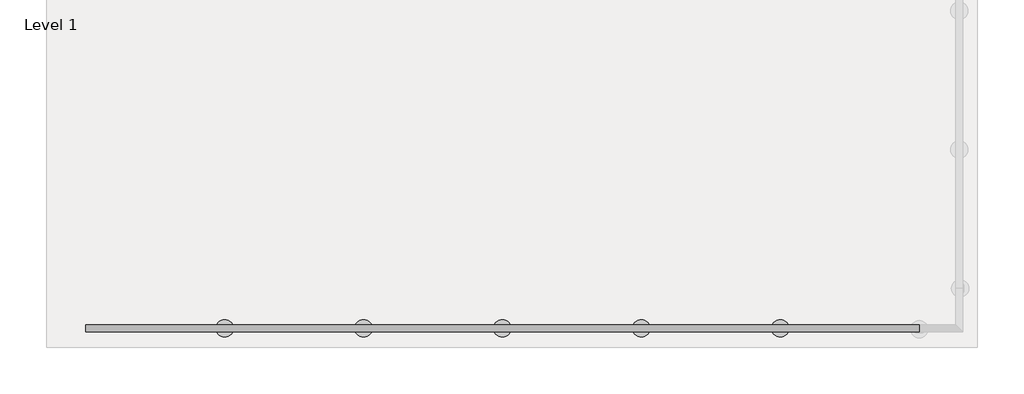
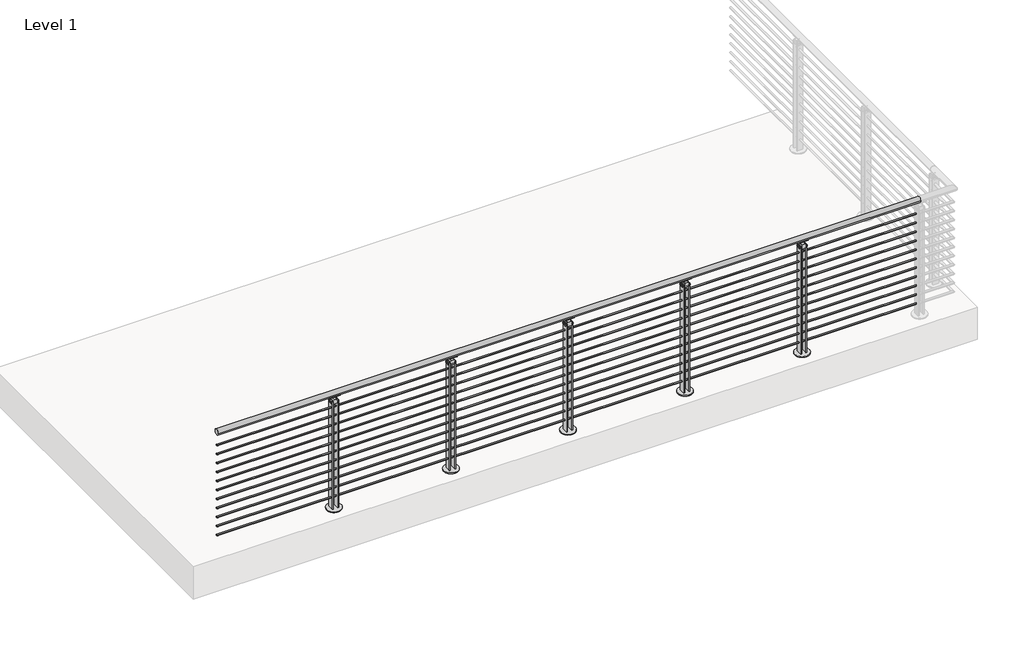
# One storey, part 12 of 36: 1 railing.
"""IFC4 building model written with IfcOpenShell, lengths in millimetres."""

from ifc_helpers import new_model, si_unit, point, frame, frame_2d, origin, origin_with_axes, place, context, project, spatial, polyline, circle_curve, trimmed, segment, composite_curve, outline, extrude, element, save
from ifc_brep_helpers import plane_surface, cylinder_surface, revolved_surface, advanced_brep

model = new_model("IFC4")

# Units and contexts
model_context = context("Model", 3, world=origin())
ifc_project = project(units=[si_unit("LENGTHUNIT", "METRE", prefix="MILLI")], contexts=[model_context])

# Site, building, storey
site = spatial("IfcSite", under=ifc_project)
building = spatial("IfcBuilding", under=site)
storey = spatial("IfcBuildingStorey", under=building, Name="Level 1", Elevation=0.0)

# Railing
placement = place(None, origin())
element("IfcRailing", 1, ObjectType="VIVA-BLADE-Multiline-Core Mount-Straight", at=placement, inside=storey, context=model_context, shape_type="SolidModel", body=[
    extrude(outline(composite_curve([segment(trimmed(circle_curve(frame_2d((-74875.5334719, 1054.1)), 25.4), [point((-74900.9334719, 1054.1))], [point((-74850.1334719, 1054.1))], False, "CARTESIAN"), True, "CONTINUOUS"), segment(trimmed(circle_curve(frame_2d((-74875.5334719, 1054.1)), 25.4), [point((-74850.1334719, 1054.1))], [point((-74900.9334719, 1054.1))], False, "CARTESIAN"), True, "CONTINUOUS")], self_intersect=False)), frame((63502.3092968, 0.0, 0.0), z_axis=(1.0, 0.0, 0.0), x_axis=(0.0, 1.0, 0.0)), (0.0, 0.0, 1.0), 6096.0),
    extrude(outline(composite_curve([segment(trimmed(circle_curve(frame_2d((-74875.5334719, 933.45)), 6.35), [point((-74869.1834719, 933.45))], [point((-74881.8834719, 933.45))], False, "CARTESIAN"), True, "CONTINUOUS"), segment(trimmed(circle_curve(frame_2d((-74875.5334719, 933.45)), 6.35), [point((-74881.8834719, 933.45))], [point((-74869.1834719, 933.45))], False, "CARTESIAN"), True, "CONTINUOUS")], self_intersect=False)), frame((63502.3092968, 0.0, 0.0), z_axis=(1.0, 0.0, 0.0), x_axis=(0.0, 1.0, 0.0)), (0.0, 0.0, 1.0), 6096.0),
    extrude(outline(composite_curve([segment(trimmed(circle_curve(frame_2d((-74875.5334719, 850.9)), 6.35), [point((-74869.1834719, 850.9))], [point((-74881.8834719, 850.9))], False, "CARTESIAN"), True, "CONTINUOUS"), segment(trimmed(circle_curve(frame_2d((-74875.5334719, 850.9)), 6.35), [point((-74881.8834719, 850.9))], [point((-74869.1834719, 850.9))], False, "CARTESIAN"), True, "CONTINUOUS")], self_intersect=False)), frame((63502.3092968, 0.0, 0.0), z_axis=(1.0, 0.0, 0.0), x_axis=(0.0, 1.0, 0.0)), (0.0, 0.0, 1.0), 6096.0),
    extrude(outline(composite_curve([segment(trimmed(circle_curve(frame_2d((-74875.5334719, 768.35)), 6.35), [point((-74869.1834719, 768.35))], [point((-74881.8834719, 768.35))], False, "CARTESIAN"), True, "CONTINUOUS"), segment(trimmed(circle_curve(frame_2d((-74875.5334719, 768.35)), 6.35), [point((-74881.8834719, 768.35))], [point((-74869.1834719, 768.35))], False, "CARTESIAN"), True, "CONTINUOUS")], self_intersect=False)), frame((63502.3092968, 0.0, 0.0), z_axis=(1.0, 0.0, 0.0), x_axis=(0.0, 1.0, 0.0)), (0.0, 0.0, 1.0), 6096.0),
    extrude(outline(composite_curve([segment(trimmed(circle_curve(frame_2d((-74875.5334719, 685.8)), 6.35), [point((-74869.1834719, 685.8))], [point((-74881.8834719, 685.8))], False, "CARTESIAN"), True, "CONTINUOUS"), segment(trimmed(circle_curve(frame_2d((-74875.5334719, 685.8)), 6.35), [point((-74881.8834719, 685.8))], [point((-74869.1834719, 685.8))], False, "CARTESIAN"), True, "CONTINUOUS")], self_intersect=False)), frame((63502.3092968, 0.0, 0.0), z_axis=(1.0, 0.0, 0.0), x_axis=(0.0, 1.0, 0.0)), (0.0, 0.0, 1.0), 6096.0),
    extrude(outline(composite_curve([segment(trimmed(circle_curve(frame_2d((-74875.5334719, 603.25)), 6.35), [point((-74869.1834719, 603.25))], [point((-74881.8834719, 603.25))], False, "CARTESIAN"), True, "CONTINUOUS"), segment(trimmed(circle_curve(frame_2d((-74875.5334719, 603.25)), 6.35), [point((-74881.8834719, 603.25))], [point((-74869.1834719, 603.25))], False, "CARTESIAN"), True, "CONTINUOUS")], self_intersect=False)), frame((63502.3092968, 0.0, 0.0), z_axis=(1.0, 0.0, 0.0), x_axis=(0.0, 1.0, 0.0)), (0.0, 0.0, 1.0), 6096.0),
    extrude(outline(composite_curve([segment(trimmed(circle_curve(frame_2d((-74875.5334719, 520.7)), 6.35), [point((-74869.1834719, 520.7))], [point((-74881.8834719, 520.7))], False, "CARTESIAN"), True, "CONTINUOUS"), segment(trimmed(circle_curve(frame_2d((-74875.5334719, 520.7)), 6.35), [point((-74881.8834719, 520.7))], [point((-74869.1834719, 520.7))], False, "CARTESIAN"), True, "CONTINUOUS")], self_intersect=False)), frame((63502.3092968, 0.0, 0.0), z_axis=(1.0, 0.0, 0.0), x_axis=(0.0, 1.0, 0.0)), (0.0, 0.0, 1.0), 6096.0),
    extrude(outline(composite_curve([segment(trimmed(circle_curve(frame_2d((-74875.5334719, 438.15)), 6.35), [point((-74869.1834719, 438.15))], [point((-74881.8834719, 438.15))], False, "CARTESIAN"), True, "CONTINUOUS"), segment(trimmed(circle_curve(frame_2d((-74875.5334719, 438.15)), 6.35), [point((-74881.8834719, 438.15))], [point((-74869.1834719, 438.15))], False, "CARTESIAN"), True, "CONTINUOUS")], self_intersect=False)), frame((63502.3092968, 0.0, 0.0), z_axis=(1.0, 0.0, 0.0), x_axis=(0.0, 1.0, 0.0)), (0.0, 0.0, 1.0), 6096.0),
    extrude(outline(composite_curve([segment(trimmed(circle_curve(frame_2d((-74875.5334719, 355.6)), 6.35), [point((-74869.1834719, 355.6))], [point((-74881.8834719, 355.6))], False, "CARTESIAN"), True, "CONTINUOUS"), segment(trimmed(circle_curve(frame_2d((-74875.5334719, 355.6)), 6.35), [point((-74881.8834719, 355.6))], [point((-74869.1834719, 355.6))], False, "CARTESIAN"), True, "CONTINUOUS")], self_intersect=False)), frame((63502.3092968, 0.0, 0.0), z_axis=(1.0, 0.0, 0.0), x_axis=(0.0, 1.0, 0.0)), (0.0, 0.0, 1.0), 6096.0),
    extrude(outline(composite_curve([segment(trimmed(circle_curve(frame_2d((-74875.5334719, 273.05)), 6.35), [point((-74869.1834719, 273.05))], [point((-74881.8834719, 273.05))], False, "CARTESIAN"), True, "CONTINUOUS"), segment(trimmed(circle_curve(frame_2d((-74875.5334719, 273.05)), 6.35), [point((-74881.8834719, 273.05))], [point((-74869.1834719, 273.05))], False, "CARTESIAN"), True, "CONTINUOUS")], self_intersect=False)), frame((63502.3092968, 0.0, 0.0), z_axis=(1.0, 0.0, 0.0), x_axis=(0.0, 1.0, 0.0)), (0.0, 0.0, 1.0), 6096.0),
    extrude(outline(composite_curve([segment(trimmed(circle_curve(frame_2d((-74875.5334719, 190.5)), 6.35), [point((-74869.1834719, 190.5))], [point((-74881.8834719, 190.5))], False, "CARTESIAN"), True, "CONTINUOUS"), segment(trimmed(circle_curve(frame_2d((-74875.5334719, 190.5)), 6.35), [point((-74881.8834719, 190.5))], [point((-74869.1834719, 190.5))], False, "CARTESIAN"), True, "CONTINUOUS")], self_intersect=False)), frame((63502.3092968, 0.0, 0.0), z_axis=(1.0, 0.0, 0.0), x_axis=(0.0, 1.0, 0.0)), (0.0, 0.0, 1.0), 6096.0),
    extrude(outline(composite_curve([segment(trimmed(circle_curve(frame_2d((-74875.5334719, 107.95)), 6.35), [point((-74869.1834719, 107.95))], [point((-74881.8834719, 107.95))], False, "CARTESIAN"), True, "CONTINUOUS"), segment(trimmed(circle_curve(frame_2d((-74875.5334719, 107.95)), 6.35), [point((-74881.8834719, 107.95))], [point((-74869.1834719, 107.95))], False, "CARTESIAN"), True, "CONTINUOUS")], self_intersect=False)), frame((63502.3092968, 0.0, 0.0), z_axis=(1.0, 0.0, 0.0), x_axis=(0.0, 1.0, 0.0)), (0.0, 0.0, 1.0), 6096.0),
    extrude(outline(polyline([(68555.2344611, -74850.1336752), (68563.2592968, -74850.1336752), (68563.2592968, -74900.9359998), (68555.2344611, -74900.9359998), (68555.2344611, -74850.1336752)])), frame((0.0, 0.0, -146.05), z_axis=(0.0, 0.0, 1.0), x_axis=(1.0, 0.0, 0.0)), (0.0, 0.0, 1.0), 146.05),
    extrude(outline(polyline([(68601.3592587, -74850.1336752), (68609.3602587, -74850.1336752), (68609.3602587, -74900.9359998), (68601.3592587, -74900.9359998), (68601.3592587, -74850.1336752)])), frame((0.0, 0.0, -146.05), z_axis=(0.0, 0.0, 1.0), x_axis=(1.0, 0.0, 0.0)), (0.0, 0.0, 1.0), 146.05),
    extrude(outline(composite_curve([segment(trimmed(circle_curve(frame_2d((68582.2973599, -74875.5334719)), 63.4988059), [point((68582.2973599, -74939.0322778))], [point((68582.2973599, -74812.0346659))], False, "CARTESIAN"), True, "CONTINUOUS"), segment(trimmed(circle_curve(frame_2d((68582.2973599, -74875.5334719)), 63.4988059), [point((68582.2973599, -74812.0346659))], [point((68582.2973599, -74939.0322778))], False, "CARTESIAN"), True, "CONTINUOUS")], self_intersect=False)), origin_with_axes(), (0.0, 0.0, 1.0), 9.525),
    advanced_brep(
    [(68627.5466968, -74862.7733482, 1032.0967655), (68627.5466968, -74887.6454127, 1031.9535285), (68627.5466968, -74890.4543431, 1027.1267745), (68627.5466968, -74858.9374508, 1027.707533), (68537.0718968, -74862.7733482, 1032.0967655), (68537.0718968, -74858.9374508, 1027.707533), (68537.0718968, -74890.5681364, 1027.1893964), (68537.0718968, -74887.7323849, 1032.0018447)],
    [
        (0, 1, circle_curve(frame((68627.5466968, -74875.3371511, 1054.2115898), z_axis=(-1.0, 0.0, 0.0), x_axis=(0.0, 1.0, 0.0)), 25.4345159)),
        (1, 2, circle_curve(frame((68627.5466968, -74888.977038, 1029.4993599), z_axis=(1.0, 0.0, 0.0), x_axis=(0.0, 1.0, 0.0)), 2.7949225)),
        (2, 3, circle_curve(frame((68627.5466968, -74875.203688, 1054.9742164), z_axis=(1.0, 0.0, 0.0), x_axis=(0.0, 1.0, 0.0)), 31.75)),
        (3, 0, circle_curve(frame((68627.5466968, -74861.2257905, 1029.5784521), z_axis=(1.0, 0.0, 0.0), x_axis=(0.0, 1.0, 0.0)), 2.9558141)),
        (4, 5, circle_curve(frame((68537.0718968, -74861.2257905, 1029.5784521), z_axis=(-1.0, 0.0, 0.0), x_axis=(0.0, 1.0, 0.0)), 2.9558141)),
        (5, 6, circle_curve(frame((68537.0718968, -74875.203688, 1054.9742164), z_axis=(-1.0, 0.0, 0.0), x_axis=(0.0, 1.0, 0.0)), 31.75)),
        (6, 7, circle_curve(frame((68537.0718968, -74888.977038, 1029.4993599), z_axis=(-1.0, 0.0, 0.0), x_axis=(0.0, 1.0, 0.0)), 2.7949225)),
        (7, 4, circle_curve(frame((68537.0718968, -74875.3371511, 1054.2115898), z_axis=(1.0, 0.0, 0.0), x_axis=(0.0, 1.0, 0.0)), 25.4345159)),
        (0, 4),
        (7, 1),
        (6, 2),
        (5, 3),
    ],
    [
        plane_surface(frame((68627.5466968, -74849.9026353, 1054.2115898), z_axis=(1.0, 0.0, 0.0), x_axis=(0.0, 0.0, -1.0))),
        plane_surface(frame((68537.0718968, -74849.9026353, 1054.2115898), z_axis=(-1.0, 0.0, 0.0), x_axis=(0.0, 0.0, 1.0))),
        revolved_surface(polyline([(68537.0718968, -74849.90263520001, 1054.2115898), (68627.5466968, -74849.90263520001, 1054.2115898)]), (68537.0718968, -74875.3371511, 1054.2115898), (-1.0, 0.0, 0.0)),
        cylinder_surface(frame((68537.0718968, -74888.977038, 1029.4993599), z_axis=(1.0, 0.0, 0.0), x_axis=(0.0, 1.0, 0.0)), 2.7949225),
        cylinder_surface(frame((68537.0718968, -74875.203688, 1054.9742164), z_axis=(1.0, 0.0, 0.0), x_axis=(0.0, 1.0, 0.0)), 31.75),
        cylinder_surface(frame((68537.0718968, -74861.2257905, 1029.5784521), z_axis=(1.0, 0.0, 0.0), x_axis=(0.0, 1.0, 0.0)), 2.9558141),
    ],
    [
        (0, [[1, 2, 3, 4]]),
        (1, [[5, 6, 7, 8]]),
        (2, [[-1, 9, -8, 10]]),
        (3, [[-2, -10, -7, 11]]),
        (4, [[-3, -11, -6, 12]]),
        (5, [[-4, -12, -5, -9]]),
    ],
),
    advanced_brep(
    [(68595.0092968, -74872.9934719, 1014.4125), (68569.6092968, -74872.9934719, 1014.4125), (68555.2413819, -74872.9934719, 1028.7804149), (68609.3772116, -74872.9934719, 1028.7804149), (68595.0092968, -74878.0734719, 1014.4125), (68609.3772116, -74878.0734719, 1028.7804149), (68555.2413819, -74878.0734719, 1028.7804149), (68569.6092968, -74878.0734719, 1014.4125)],
    [
        (0, 1),
        (1, 2, circle_curve(frame((68555.2413819, -74872.9934719, 1014.4125), z_axis=(0.0, -1.0, 0.0), x_axis=(-1.0, 0.0, 0.0)), 14.3679149)),
        (2, 3),
        (3, 0, circle_curve(frame((68609.3772116, -74872.9934719, 1014.4125), z_axis=(0.0, -1.0, 0.0), x_axis=(-1.0, 0.0, 0.0)), 14.3679149)),
        (4, 5, circle_curve(frame((68609.3772116, -74878.0734719, 1014.4125), z_axis=(0.0, 1.0, 0.0), x_axis=(-1.0, 0.0, 0.0)), 14.3679149)),
        (5, 6),
        (6, 7, circle_curve(frame((68555.2413819, -74878.0734719, 1014.4125), z_axis=(0.0, 1.0, 0.0), x_axis=(-1.0, 0.0, 0.0)), 14.3679149)),
        (7, 4),
        (0, 4),
        (7, 1),
        (6, 2),
        (5, 3),
    ],
    [
        plane_surface(frame((68569.6092968, -74872.9934719, 1014.4125), z_axis=(0.0, 1.0, 0.0), x_axis=(-1.0, 0.0, 0.0))),
        plane_surface(frame((68569.6092968, -74878.0734719, 1014.4125), z_axis=(0.0, -1.0, 0.0), x_axis=(1.0, 0.0, 0.0))),
        plane_surface(frame((68595.0092968, -74872.9934719, 1014.4125), z_axis=(0.0, 0.0, -1.0), x_axis=(0.0, -1.0, 0.0))),
        revolved_surface(polyline([(68540.87346700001, -74878.0734719, 1014.4125), (68540.87346700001, -74872.9934719, 1014.4125)]), (68555.2413819, -74878.0734719, 1014.4125), (0.0, -1.0, 0.0)),
        plane_surface(frame((68555.2413819, -74872.9934719, 1028.7804149), z_axis=(0.0, 0.0, 1.0), x_axis=(0.0, -1.0, 0.0))),
        revolved_surface(polyline([(68595.00929670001, -74878.0734719, 1014.4125), (68595.00929670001, -74872.9934719, 1014.4125)]), (68609.3772116, -74878.0734719, 1014.4125), (0.0, -1.0, 0.0)),
    ],
    [
        (0, [[1, 2, 3, 4]]),
        (1, [[5, 6, 7, 8]]),
        (2, [[-1, 9, -8, 10]]),
        (3, [[-2, -10, -7, 11]]),
        (4, [[-3, -11, -6, 12]]),
        (5, [[-4, -12, -5, -9]]),
    ],
),
    extrude(outline(polyline([(68555.2344611, -74850.1336752), (68563.2592968, -74850.1336752), (68563.2592968, -74900.9359998), (68555.2344611, -74900.9359998), (68555.2344611, -74850.1336752)])), origin_with_axes(), (0.0, 0.0, 1.0), 996.95),
    extrude(outline(composite_curve([segment(trimmed(circle_curve(frame_2d((-74888.2359488, 986.0416929)), 8.89), [point((-74897.1259488, 986.0416929))], [point((-74879.3459488, 986.0416929))], False, "CARTESIAN"), True, "CONTINUOUS"), segment(trimmed(circle_curve(frame_2d((-74888.2359488, 986.0416929)), 8.89), [point((-74879.3459488, 986.0416929))], [point((-74897.1259488, 986.0416929))], False, "CARTESIAN"), True, "CONTINUOUS")], self_intersect=False)), frame((68550.5592968, 0.0, 0.0), z_axis=(1.0, 0.0, 0.0), x_axis=(0.0, 1.0, 0.0)), (0.0, 0.0, 1.0), 63.4880631),
    extrude(outline(composite_curve([segment(trimmed(circle_curve(frame_2d((-74862.8360508, 986.0416929)), 8.89), [point((-74871.7260508, 986.0416929))], [point((-74853.9460508, 986.0416929))], False, "CARTESIAN"), True, "CONTINUOUS"), segment(trimmed(circle_curve(frame_2d((-74862.8360508, 986.0416929)), 8.89), [point((-74853.9460508, 986.0416929))], [point((-74871.7260508, 986.0416929))], False, "CARTESIAN"), True, "CONTINUOUS")], self_intersect=False)), frame((68550.5592968, 0.0, 0.0), z_axis=(1.0, 0.0, 0.0), x_axis=(0.0, 1.0, 0.0)), (0.0, 0.0, 1.0), 63.4880631),
    extrude(outline(polyline([(974.7123, 68563.2592968), (974.7123, 68601.3592968), (1008.0625, 68601.3592968), (1014.4125, 68595.0092968), (1014.4125, 68569.6092968), (1008.0625, 68563.2592968), (974.7123, 68563.2592968)])), frame((0.0, -74900.9359998, 0.0), z_axis=(0.0, 1.0, 0.0), x_axis=(0.0, 0.0, 1.0)), (0.0, 0.0, 1.0), 50.8025279),
    extrude(outline(polyline([(68601.3592587, -74850.1336752), (68609.3602587, -74850.1336752), (68609.3602587, -74900.9359998), (68601.3592587, -74900.9359998), (68601.3592587, -74850.1336752)])), origin_with_axes(), (0.0, 0.0, 1.0), 996.95),
    extrude(outline(polyline([(67539.2344611, -74850.1336752), (67547.2592968, -74850.1336752), (67547.2592968, -74900.9359998), (67539.2344611, -74900.9359998), (67539.2344611, -74850.1336752)])), frame((0.0, 0.0, -146.05), z_axis=(0.0, 0.0, 1.0), x_axis=(1.0, 0.0, 0.0)), (0.0, 0.0, 1.0), 146.05),
    extrude(outline(polyline([(67585.3592587, -74850.1336752), (67593.3602587, -74850.1336752), (67593.3602587, -74900.9359998), (67585.3592587, -74900.9359998), (67585.3592587, -74850.1336752)])), frame((0.0, 0.0, -146.05), z_axis=(0.0, 0.0, 1.0), x_axis=(1.0, 0.0, 0.0)), (0.0, 0.0, 1.0), 146.05),
    extrude(outline(composite_curve([segment(trimmed(circle_curve(frame_2d((67566.2973599, -74875.5334719)), 63.4988059), [point((67566.2973599, -74939.0322778))], [point((67566.2973599, -74812.0346659))], False, "CARTESIAN"), True, "CONTINUOUS"), segment(trimmed(circle_curve(frame_2d((67566.2973599, -74875.5334719)), 63.4988059), [point((67566.2973599, -74812.0346659))], [point((67566.2973599, -74939.0322778))], False, "CARTESIAN"), True, "CONTINUOUS")], self_intersect=False)), origin_with_axes(), (0.0, 0.0, 1.0), 9.525),
    advanced_brep(
    [(67611.5466968, -74862.7733482, 1032.0967655), (67611.5466968, -74887.6454127, 1031.9535285), (67611.5466968, -74890.4543431, 1027.1267745), (67611.5466968, -74858.9374508, 1027.707533), (67521.0718968, -74862.7733482, 1032.0967655), (67521.0718968, -74858.9374508, 1027.707533), (67521.0718968, -74890.5681364, 1027.1893964), (67521.0718968, -74887.7323849, 1032.0018447)],
    [
        (0, 1, circle_curve(frame((67611.5466968, -74875.3371511, 1054.2115898), z_axis=(-1.0, 0.0, 0.0), x_axis=(0.0, 1.0, 0.0)), 25.4345159)),
        (1, 2, circle_curve(frame((67611.5466968, -74888.977038, 1029.4993599), z_axis=(1.0, 0.0, 0.0), x_axis=(0.0, 1.0, 0.0)), 2.7949225)),
        (2, 3, circle_curve(frame((67611.5466968, -74875.203688, 1054.9742164), z_axis=(1.0, 0.0, 0.0), x_axis=(0.0, 1.0, 0.0)), 31.75)),
        (3, 0, circle_curve(frame((67611.5466968, -74861.2257905, 1029.5784521), z_axis=(1.0, 0.0, 0.0), x_axis=(0.0, 1.0, 0.0)), 2.9558141)),
        (4, 5, circle_curve(frame((67521.0718968, -74861.2257905, 1029.5784521), z_axis=(-1.0, 0.0, 0.0), x_axis=(0.0, 1.0, 0.0)), 2.9558141)),
        (5, 6, circle_curve(frame((67521.0718968, -74875.203688, 1054.9742164), z_axis=(-1.0, 0.0, 0.0), x_axis=(0.0, 1.0, 0.0)), 31.75)),
        (6, 7, circle_curve(frame((67521.0718968, -74888.977038, 1029.4993599), z_axis=(-1.0, 0.0, 0.0), x_axis=(0.0, 1.0, 0.0)), 2.7949225)),
        (7, 4, circle_curve(frame((67521.0718968, -74875.3371511, 1054.2115898), z_axis=(1.0, 0.0, 0.0), x_axis=(0.0, 1.0, 0.0)), 25.4345159)),
        (0, 4),
        (7, 1),
        (6, 2),
        (5, 3),
    ],
    [
        plane_surface(frame((67611.5466968, -74849.9026353, 1054.2115898), z_axis=(1.0, 0.0, 0.0), x_axis=(0.0, 0.0, -1.0))),
        plane_surface(frame((67521.0718968, -74849.9026353, 1054.2115898), z_axis=(-1.0, 0.0, 0.0), x_axis=(0.0, 0.0, 1.0))),
        revolved_surface(polyline([(67521.0718968, -74849.90263520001, 1054.2115898), (67611.5466968, -74849.90263520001, 1054.2115898)]), (67521.0718968, -74875.3371511, 1054.2115898), (-1.0, 0.0, 0.0)),
        cylinder_surface(frame((67521.0718968, -74888.977038, 1029.4993599), z_axis=(1.0, 0.0, 0.0), x_axis=(0.0, 1.0, 0.0)), 2.7949225),
        cylinder_surface(frame((67521.0718968, -74875.203688, 1054.9742164), z_axis=(1.0, 0.0, 0.0), x_axis=(0.0, 1.0, 0.0)), 31.75),
        cylinder_surface(frame((67521.0718968, -74861.2257905, 1029.5784521), z_axis=(1.0, 0.0, 0.0), x_axis=(0.0, 1.0, 0.0)), 2.9558141),
    ],
    [
        (0, [[1, 2, 3, 4]]),
        (1, [[5, 6, 7, 8]]),
        (2, [[-1, 9, -8, 10]]),
        (3, [[-2, -10, -7, 11]]),
        (4, [[-3, -11, -6, 12]]),
        (5, [[-4, -12, -5, -9]]),
    ],
),
    advanced_brep(
    [(67579.0092968, -74872.9934719, 1014.4125), (67553.6092968, -74872.9934719, 1014.4125), (67539.2413819, -74872.9934719, 1028.7804149), (67593.3772116, -74872.9934719, 1028.7804149), (67579.0092968, -74878.0734719, 1014.4125), (67593.3772116, -74878.0734719, 1028.7804149), (67539.2413819, -74878.0734719, 1028.7804149), (67553.6092968, -74878.0734719, 1014.4125)],
    [
        (0, 1),
        (1, 2, circle_curve(frame((67539.2413819, -74872.9934719, 1014.4125), z_axis=(0.0, -1.0, 0.0), x_axis=(-1.0, 0.0, 0.0)), 14.3679149)),
        (2, 3),
        (3, 0, circle_curve(frame((67593.3772116, -74872.9934719, 1014.4125), z_axis=(0.0, -1.0, 0.0), x_axis=(-1.0, 0.0, 0.0)), 14.3679149)),
        (4, 5, circle_curve(frame((67593.3772116, -74878.0734719, 1014.4125), z_axis=(0.0, 1.0, 0.0), x_axis=(-1.0, 0.0, 0.0)), 14.3679149)),
        (5, 6),
        (6, 7, circle_curve(frame((67539.2413819, -74878.0734719, 1014.4125), z_axis=(0.0, 1.0, 0.0), x_axis=(-1.0, 0.0, 0.0)), 14.3679149)),
        (7, 4),
        (0, 4),
        (7, 1),
        (6, 2),
        (5, 3),
    ],
    [
        plane_surface(frame((67553.6092968, -74872.9934719, 1014.4125), z_axis=(0.0, 1.0, 0.0), x_axis=(-1.0, 0.0, 0.0))),
        plane_surface(frame((67553.6092968, -74878.0734719, 1014.4125), z_axis=(0.0, -1.0, 0.0), x_axis=(1.0, 0.0, 0.0))),
        plane_surface(frame((67579.0092968, -74872.9934719, 1014.4125), z_axis=(0.0, 0.0, -1.0), x_axis=(0.0, -1.0, 0.0))),
        revolved_surface(polyline([(67524.87346700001, -74878.0734719, 1014.4125), (67524.87346700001, -74872.9934719, 1014.4125)]), (67539.2413819, -74878.0734719, 1014.4125), (0.0, -1.0, 0.0)),
        plane_surface(frame((67539.2413819, -74872.9934719, 1028.7804149), z_axis=(0.0, 0.0, 1.0), x_axis=(0.0, -1.0, 0.0))),
        revolved_surface(polyline([(67579.00929670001, -74878.0734719, 1014.4125), (67579.00929670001, -74872.9934719, 1014.4125)]), (67593.3772116, -74878.0734719, 1014.4125), (0.0, -1.0, 0.0)),
    ],
    [
        (0, [[1, 2, 3, 4]]),
        (1, [[5, 6, 7, 8]]),
        (2, [[-1, 9, -8, 10]]),
        (3, [[-2, -10, -7, 11]]),
        (4, [[-3, -11, -6, 12]]),
        (5, [[-4, -12, -5, -9]]),
    ],
),
    extrude(outline(polyline([(67539.2344611, -74850.1336752), (67547.2592968, -74850.1336752), (67547.2592968, -74900.9359998), (67539.2344611, -74900.9359998), (67539.2344611, -74850.1336752)])), origin_with_axes(), (0.0, 0.0, 1.0), 996.95),
    extrude(outline(composite_curve([segment(trimmed(circle_curve(frame_2d((-74888.2359488, 986.0416929)), 8.89), [point((-74897.1259488, 986.0416929))], [point((-74879.3459488, 986.0416929))], False, "CARTESIAN"), True, "CONTINUOUS"), segment(trimmed(circle_curve(frame_2d((-74888.2359488, 986.0416929)), 8.89), [point((-74879.3459488, 986.0416929))], [point((-74897.1259488, 986.0416929))], False, "CARTESIAN"), True, "CONTINUOUS")], self_intersect=False)), frame((67534.5592968, 0.0, 0.0), z_axis=(1.0, 0.0, 0.0), x_axis=(0.0, 1.0, 0.0)), (0.0, 0.0, 1.0), 63.4880631),
    extrude(outline(composite_curve([segment(trimmed(circle_curve(frame_2d((-74862.8360508, 986.0416929)), 8.89), [point((-74871.7260508, 986.0416929))], [point((-74853.9460508, 986.0416929))], False, "CARTESIAN"), True, "CONTINUOUS"), segment(trimmed(circle_curve(frame_2d((-74862.8360508, 986.0416929)), 8.89), [point((-74853.9460508, 986.0416929))], [point((-74871.7260508, 986.0416929))], False, "CARTESIAN"), True, "CONTINUOUS")], self_intersect=False)), frame((67534.5592968, 0.0, 0.0), z_axis=(1.0, 0.0, 0.0), x_axis=(0.0, 1.0, 0.0)), (0.0, 0.0, 1.0), 63.4880631),
    extrude(outline(polyline([(974.7123, 67547.2592968), (974.7123, 67585.3592968), (1008.0625, 67585.3592968), (1014.4125, 67579.0092968), (1014.4125, 67553.6092968), (1008.0625, 67547.2592968), (974.7123, 67547.2592968)])), frame((0.0, -74900.9359998, 0.0), z_axis=(0.0, 1.0, 0.0), x_axis=(0.0, 0.0, 1.0)), (0.0, 0.0, 1.0), 50.8025279),
    extrude(outline(polyline([(67585.3592587, -74850.1336752), (67593.3602587, -74850.1336752), (67593.3602587, -74900.9359998), (67585.3592587, -74900.9359998), (67585.3592587, -74850.1336752)])), origin_with_axes(), (0.0, 0.0, 1.0), 996.95),
    extrude(outline(polyline([(66523.2344611, -74850.1336752), (66531.2592968, -74850.1336752), (66531.2592968, -74900.9359998), (66523.2344611, -74900.9359998), (66523.2344611, -74850.1336752)])), frame((0.0, 0.0, -146.05), z_axis=(0.0, 0.0, 1.0), x_axis=(1.0, 0.0, 0.0)), (0.0, 0.0, 1.0), 146.05),
    extrude(outline(polyline([(66569.3592587, -74850.1336752), (66577.3602587, -74850.1336752), (66577.3602587, -74900.9359998), (66569.3592587, -74900.9359998), (66569.3592587, -74850.1336752)])), frame((0.0, 0.0, -146.05), z_axis=(0.0, 0.0, 1.0), x_axis=(1.0, 0.0, 0.0)), (0.0, 0.0, 1.0), 146.05),
    extrude(outline(composite_curve([segment(trimmed(circle_curve(frame_2d((66550.2973599, -74875.5334719)), 63.4988059), [point((66550.2973599, -74939.0322778))], [point((66550.2973599, -74812.0346659))], False, "CARTESIAN"), True, "CONTINUOUS"), segment(trimmed(circle_curve(frame_2d((66550.2973599, -74875.5334719)), 63.4988059), [point((66550.2973599, -74812.0346659))], [point((66550.2973599, -74939.0322778))], False, "CARTESIAN"), True, "CONTINUOUS")], self_intersect=False)), origin_with_axes(), (0.0, 0.0, 1.0), 9.525),
    advanced_brep(
    [(66595.5466968, -74862.7733482, 1032.0967655), (66595.5466968, -74887.6454127, 1031.9535285), (66595.5466968, -74890.4543431, 1027.1267745), (66595.5466968, -74858.9374508, 1027.707533), (66505.0718968, -74862.7733482, 1032.0967655), (66505.0718968, -74858.9374508, 1027.707533), (66505.0718968, -74890.5681364, 1027.1893964), (66505.0718968, -74887.7323849, 1032.0018447)],
    [
        (0, 1, circle_curve(frame((66595.5466968, -74875.3371511, 1054.2115898), z_axis=(-1.0, 0.0, 0.0), x_axis=(0.0, 1.0, 0.0)), 25.4345159)),
        (1, 2, circle_curve(frame((66595.5466968, -74888.977038, 1029.4993599), z_axis=(1.0, 0.0, 0.0), x_axis=(0.0, 1.0, 0.0)), 2.7949225)),
        (2, 3, circle_curve(frame((66595.5466968, -74875.203688, 1054.9742164), z_axis=(1.0, 0.0, 0.0), x_axis=(0.0, 1.0, 0.0)), 31.75)),
        (3, 0, circle_curve(frame((66595.5466968, -74861.2257905, 1029.5784521), z_axis=(1.0, 0.0, 0.0), x_axis=(0.0, 1.0, 0.0)), 2.9558141)),
        (4, 5, circle_curve(frame((66505.0718968, -74861.2257905, 1029.5784521), z_axis=(-1.0, 0.0, 0.0), x_axis=(0.0, 1.0, 0.0)), 2.9558141)),
        (5, 6, circle_curve(frame((66505.0718968, -74875.203688, 1054.9742164), z_axis=(-1.0, 0.0, 0.0), x_axis=(0.0, 1.0, 0.0)), 31.75)),
        (6, 7, circle_curve(frame((66505.0718968, -74888.977038, 1029.4993599), z_axis=(-1.0, 0.0, 0.0), x_axis=(0.0, 1.0, 0.0)), 2.7949225)),
        (7, 4, circle_curve(frame((66505.0718968, -74875.3371511, 1054.2115898), z_axis=(1.0, 0.0, 0.0), x_axis=(0.0, 1.0, 0.0)), 25.4345159)),
        (0, 4),
        (7, 1),
        (6, 2),
        (5, 3),
    ],
    [
        plane_surface(frame((66595.5466968, -74849.9026353, 1054.2115898), z_axis=(1.0, 0.0, 0.0), x_axis=(0.0, 0.0, -1.0))),
        plane_surface(frame((66505.0718968, -74849.9026353, 1054.2115898), z_axis=(-1.0, 0.0, 0.0), x_axis=(0.0, 0.0, 1.0))),
        revolved_surface(polyline([(66505.0718968, -74849.90263520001, 1054.2115898), (66595.5466968, -74849.90263520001, 1054.2115898)]), (66505.0718968, -74875.3371511, 1054.2115898), (-1.0, 0.0, 0.0)),
        cylinder_surface(frame((66505.0718968, -74888.977038, 1029.4993599), z_axis=(1.0, 0.0, 0.0), x_axis=(0.0, 1.0, 0.0)), 2.7949225),
        cylinder_surface(frame((66505.0718968, -74875.203688, 1054.9742164), z_axis=(1.0, 0.0, 0.0), x_axis=(0.0, 1.0, 0.0)), 31.75),
        cylinder_surface(frame((66505.0718968, -74861.2257905, 1029.5784521), z_axis=(1.0, 0.0, 0.0), x_axis=(0.0, 1.0, 0.0)), 2.9558141),
    ],
    [
        (0, [[1, 2, 3, 4]]),
        (1, [[5, 6, 7, 8]]),
        (2, [[-1, 9, -8, 10]]),
        (3, [[-2, -10, -7, 11]]),
        (4, [[-3, -11, -6, 12]]),
        (5, [[-4, -12, -5, -9]]),
    ],
),
    advanced_brep(
    [(66563.0092968, -74872.9934719, 1014.4125), (66537.6092968, -74872.9934719, 1014.4125), (66523.2413819, -74872.9934719, 1028.7804149), (66577.3772116, -74872.9934719, 1028.7804149), (66563.0092968, -74878.0734719, 1014.4125), (66577.3772116, -74878.0734719, 1028.7804149), (66523.2413819, -74878.0734719, 1028.7804149), (66537.6092968, -74878.0734719, 1014.4125)],
    [
        (0, 1),
        (1, 2, circle_curve(frame((66523.2413819, -74872.9934719, 1014.4125), z_axis=(0.0, -1.0, 0.0), x_axis=(-1.0, 0.0, 0.0)), 14.3679149)),
        (2, 3),
        (3, 0, circle_curve(frame((66577.3772116, -74872.9934719, 1014.4125), z_axis=(0.0, -1.0, 0.0), x_axis=(-1.0, 0.0, 0.0)), 14.3679149)),
        (4, 5, circle_curve(frame((66577.3772116, -74878.0734719, 1014.4125), z_axis=(0.0, 1.0, 0.0), x_axis=(-1.0, 0.0, 0.0)), 14.3679149)),
        (5, 6),
        (6, 7, circle_curve(frame((66523.2413819, -74878.0734719, 1014.4125), z_axis=(0.0, 1.0, 0.0), x_axis=(-1.0, 0.0, 0.0)), 14.3679149)),
        (7, 4),
        (0, 4),
        (7, 1),
        (6, 2),
        (5, 3),
    ],
    [
        plane_surface(frame((66537.6092968, -74872.9934719, 1014.4125), z_axis=(0.0, 1.0, 0.0), x_axis=(-1.0, 0.0, 0.0))),
        plane_surface(frame((66537.6092968, -74878.0734719, 1014.4125), z_axis=(0.0, -1.0, 0.0), x_axis=(1.0, 0.0, 0.0))),
        plane_surface(frame((66563.0092968, -74872.9934719, 1014.4125), z_axis=(0.0, 0.0, -1.0), x_axis=(0.0, -1.0, 0.0))),
        revolved_surface(polyline([(66508.87346700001, -74878.0734719, 1014.4125), (66508.87346700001, -74872.9934719, 1014.4125)]), (66523.2413819, -74878.0734719, 1014.4125), (0.0, -1.0, 0.0)),
        plane_surface(frame((66523.2413819, -74872.9934719, 1028.7804149), z_axis=(0.0, 0.0, 1.0), x_axis=(0.0, -1.0, 0.0))),
        revolved_surface(polyline([(66563.00929670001, -74878.0734719, 1014.4125), (66563.00929670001, -74872.9934719, 1014.4125)]), (66577.3772116, -74878.0734719, 1014.4125), (0.0, -1.0, 0.0)),
    ],
    [
        (0, [[1, 2, 3, 4]]),
        (1, [[5, 6, 7, 8]]),
        (2, [[-1, 9, -8, 10]]),
        (3, [[-2, -10, -7, 11]]),
        (4, [[-3, -11, -6, 12]]),
        (5, [[-4, -12, -5, -9]]),
    ],
),
    extrude(outline(polyline([(66523.2344611, -74850.1336752), (66531.2592968, -74850.1336752), (66531.2592968, -74900.9359998), (66523.2344611, -74900.9359998), (66523.2344611, -74850.1336752)])), origin_with_axes(), (0.0, 0.0, 1.0), 996.95),
    extrude(outline(composite_curve([segment(trimmed(circle_curve(frame_2d((-74888.2359488, 986.0416929)), 8.89), [point((-74897.1259488, 986.0416929))], [point((-74879.3459488, 986.0416929))], False, "CARTESIAN"), True, "CONTINUOUS"), segment(trimmed(circle_curve(frame_2d((-74888.2359488, 986.0416929)), 8.89), [point((-74879.3459488, 986.0416929))], [point((-74897.1259488, 986.0416929))], False, "CARTESIAN"), True, "CONTINUOUS")], self_intersect=False)), frame((66518.5592968, 0.0, 0.0), z_axis=(1.0, 0.0, 0.0), x_axis=(0.0, 1.0, 0.0)), (0.0, 0.0, 1.0), 63.4880631),
    extrude(outline(composite_curve([segment(trimmed(circle_curve(frame_2d((-74862.8360508, 986.0416929)), 8.89), [point((-74871.7260508, 986.0416929))], [point((-74853.9460508, 986.0416929))], False, "CARTESIAN"), True, "CONTINUOUS"), segment(trimmed(circle_curve(frame_2d((-74862.8360508, 986.0416929)), 8.89), [point((-74853.9460508, 986.0416929))], [point((-74871.7260508, 986.0416929))], False, "CARTESIAN"), True, "CONTINUOUS")], self_intersect=False)), frame((66518.5592968, 0.0, 0.0), z_axis=(1.0, 0.0, 0.0), x_axis=(0.0, 1.0, 0.0)), (0.0, 0.0, 1.0), 63.4880631),
    extrude(outline(polyline([(974.7123, 66531.2592968), (974.7123, 66569.3592968), (1008.0625, 66569.3592968), (1014.4125, 66563.0092968), (1014.4125, 66537.6092968), (1008.0625, 66531.2592968), (974.7123, 66531.2592968)])), frame((0.0, -74900.9359998, 0.0), z_axis=(0.0, 1.0, 0.0), x_axis=(0.0, 0.0, 1.0)), (0.0, 0.0, 1.0), 50.8025279),
    extrude(outline(polyline([(66569.3592587, -74850.1336752), (66577.3602587, -74850.1336752), (66577.3602587, -74900.9359998), (66569.3592587, -74900.9359998), (66569.3592587, -74850.1336752)])), origin_with_axes(), (0.0, 0.0, 1.0), 996.95),
    extrude(outline(polyline([(65507.2344611, -74850.1336752), (65515.2592968, -74850.1336752), (65515.2592968, -74900.9359998), (65507.2344611, -74900.9359998), (65507.2344611, -74850.1336752)])), frame((0.0, 0.0, -146.05), z_axis=(0.0, 0.0, 1.0), x_axis=(1.0, 0.0, 0.0)), (0.0, 0.0, 1.0), 146.05),
    extrude(outline(polyline([(65553.3592587, -74850.1336752), (65561.3602587, -74850.1336752), (65561.3602587, -74900.9359998), (65553.3592587, -74900.9359998), (65553.3592587, -74850.1336752)])), frame((0.0, 0.0, -146.05), z_axis=(0.0, 0.0, 1.0), x_axis=(1.0, 0.0, 0.0)), (0.0, 0.0, 1.0), 146.05),
    extrude(outline(composite_curve([segment(trimmed(circle_curve(frame_2d((65534.2973599, -74875.5334719)), 63.4988059), [point((65534.2973599, -74939.0322778))], [point((65534.2973599, -74812.0346659))], False, "CARTESIAN"), True, "CONTINUOUS"), segment(trimmed(circle_curve(frame_2d((65534.2973599, -74875.5334719)), 63.4988059), [point((65534.2973599, -74812.0346659))], [point((65534.2973599, -74939.0322778))], False, "CARTESIAN"), True, "CONTINUOUS")], self_intersect=False)), origin_with_axes(), (0.0, 0.0, 1.0), 9.525),
    advanced_brep(
    [(65579.5466968, -74862.7733482, 1032.0967655), (65579.5466968, -74887.6454127, 1031.9535285), (65579.5466968, -74890.4543431, 1027.1267745), (65579.5466968, -74858.9374508, 1027.707533), (65489.0718968, -74862.7733482, 1032.0967655), (65489.0718968, -74858.9374508, 1027.707533), (65489.0718968, -74890.5681364, 1027.1893964), (65489.0718968, -74887.7323849, 1032.0018447)],
    [
        (0, 1, circle_curve(frame((65579.5466968, -74875.3371511, 1054.2115898), z_axis=(-1.0, 0.0, 0.0), x_axis=(0.0, 1.0, 0.0)), 25.4345159)),
        (1, 2, circle_curve(frame((65579.5466968, -74888.977038, 1029.4993599), z_axis=(1.0, 0.0, 0.0), x_axis=(0.0, 1.0, 0.0)), 2.7949225)),
        (2, 3, circle_curve(frame((65579.5466968, -74875.203688, 1054.9742164), z_axis=(1.0, 0.0, 0.0), x_axis=(0.0, 1.0, 0.0)), 31.75)),
        (3, 0, circle_curve(frame((65579.5466968, -74861.2257905, 1029.5784521), z_axis=(1.0, 0.0, 0.0), x_axis=(0.0, 1.0, 0.0)), 2.9558141)),
        (4, 5, circle_curve(frame((65489.0718968, -74861.2257905, 1029.5784521), z_axis=(-1.0, 0.0, 0.0), x_axis=(0.0, 1.0, 0.0)), 2.9558141)),
        (5, 6, circle_curve(frame((65489.0718968, -74875.203688, 1054.9742164), z_axis=(-1.0, 0.0, 0.0), x_axis=(0.0, 1.0, 0.0)), 31.75)),
        (6, 7, circle_curve(frame((65489.0718968, -74888.977038, 1029.4993599), z_axis=(-1.0, 0.0, 0.0), x_axis=(0.0, 1.0, 0.0)), 2.7949225)),
        (7, 4, circle_curve(frame((65489.0718968, -74875.3371511, 1054.2115898), z_axis=(1.0, 0.0, 0.0), x_axis=(0.0, 1.0, 0.0)), 25.4345159)),
        (0, 4),
        (7, 1),
        (6, 2),
        (5, 3),
    ],
    [
        plane_surface(frame((65579.5466968, -74849.9026353, 1054.2115898), z_axis=(1.0, 0.0, 0.0), x_axis=(0.0, 0.0, -1.0))),
        plane_surface(frame((65489.0718968, -74849.9026353, 1054.2115898), z_axis=(-1.0, 0.0, 0.0), x_axis=(0.0, 0.0, 1.0))),
        revolved_surface(polyline([(65489.0718968, -74849.90263520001, 1054.2115898), (65579.5466968, -74849.90263520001, 1054.2115898)]), (65489.0718968, -74875.3371511, 1054.2115898), (-1.0, 0.0, 0.0)),
        cylinder_surface(frame((65489.0718968, -74888.977038, 1029.4993599), z_axis=(1.0, 0.0, 0.0), x_axis=(0.0, 1.0, 0.0)), 2.7949225),
        cylinder_surface(frame((65489.0718968, -74875.203688, 1054.9742164), z_axis=(1.0, 0.0, 0.0), x_axis=(0.0, 1.0, 0.0)), 31.75),
        cylinder_surface(frame((65489.0718968, -74861.2257905, 1029.5784521), z_axis=(1.0, 0.0, 0.0), x_axis=(0.0, 1.0, 0.0)), 2.9558141),
    ],
    [
        (0, [[1, 2, 3, 4]]),
        (1, [[5, 6, 7, 8]]),
        (2, [[-1, 9, -8, 10]]),
        (3, [[-2, -10, -7, 11]]),
        (4, [[-3, -11, -6, 12]]),
        (5, [[-4, -12, -5, -9]]),
    ],
),
    advanced_brep(
    [(65547.0092968, -74872.9934719, 1014.4125), (65521.6092968, -74872.9934719, 1014.4125), (65507.2413819, -74872.9934719, 1028.7804149), (65561.3772116, -74872.9934719, 1028.7804149), (65547.0092968, -74878.0734719, 1014.4125), (65561.3772116, -74878.0734719, 1028.7804149), (65507.2413819, -74878.0734719, 1028.7804149), (65521.6092968, -74878.0734719, 1014.4125)],
    [
        (0, 1),
        (1, 2, circle_curve(frame((65507.2413819, -74872.9934719, 1014.4125), z_axis=(0.0, -1.0, 0.0), x_axis=(-1.0, 0.0, 0.0)), 14.3679149)),
        (2, 3),
        (3, 0, circle_curve(frame((65561.3772116, -74872.9934719, 1014.4125), z_axis=(0.0, -1.0, 0.0), x_axis=(-1.0, 0.0, 0.0)), 14.3679149)),
        (4, 5, circle_curve(frame((65561.3772116, -74878.0734719, 1014.4125), z_axis=(0.0, 1.0, 0.0), x_axis=(-1.0, 0.0, 0.0)), 14.3679149)),
        (5, 6),
        (6, 7, circle_curve(frame((65507.2413819, -74878.0734719, 1014.4125), z_axis=(0.0, 1.0, 0.0), x_axis=(-1.0, 0.0, 0.0)), 14.3679149)),
        (7, 4),
        (0, 4),
        (7, 1),
        (6, 2),
        (5, 3),
    ],
    [
        plane_surface(frame((65521.6092968, -74872.9934719, 1014.4125), z_axis=(0.0, 1.0, 0.0), x_axis=(-1.0, 0.0, 0.0))),
        plane_surface(frame((65521.6092968, -74878.0734719, 1014.4125), z_axis=(0.0, -1.0, 0.0), x_axis=(1.0, 0.0, 0.0))),
        plane_surface(frame((65547.0092968, -74872.9934719, 1014.4125), z_axis=(0.0, 0.0, -1.0), x_axis=(0.0, -1.0, 0.0))),
        revolved_surface(polyline([(65492.873467, -74878.0734719, 1014.4125), (65492.873467, -74872.9934719, 1014.4125)]), (65507.2413819, -74878.0734719, 1014.4125), (0.0, -1.0, 0.0)),
        plane_surface(frame((65507.2413819, -74872.9934719, 1028.7804149), z_axis=(0.0, 0.0, 1.0), x_axis=(0.0, -1.0, 0.0))),
        revolved_surface(polyline([(65547.00929670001, -74878.0734719, 1014.4125), (65547.00929670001, -74872.9934719, 1014.4125)]), (65561.3772116, -74878.0734719, 1014.4125), (0.0, -1.0, 0.0)),
    ],
    [
        (0, [[1, 2, 3, 4]]),
        (1, [[5, 6, 7, 8]]),
        (2, [[-1, 9, -8, 10]]),
        (3, [[-2, -10, -7, 11]]),
        (4, [[-3, -11, -6, 12]]),
        (5, [[-4, -12, -5, -9]]),
    ],
),
    extrude(outline(polyline([(65507.2344611, -74850.1336752), (65515.2592968, -74850.1336752), (65515.2592968, -74900.9359998), (65507.2344611, -74900.9359998), (65507.2344611, -74850.1336752)])), origin_with_axes(), (0.0, 0.0, 1.0), 996.95),
    extrude(outline(composite_curve([segment(trimmed(circle_curve(frame_2d((-74888.2359488, 986.0416929)), 8.89), [point((-74897.1259488, 986.0416929))], [point((-74879.3459488, 986.0416929))], False, "CARTESIAN"), True, "CONTINUOUS"), segment(trimmed(circle_curve(frame_2d((-74888.2359488, 986.0416929)), 8.89), [point((-74879.3459488, 986.0416929))], [point((-74897.1259488, 986.0416929))], False, "CARTESIAN"), True, "CONTINUOUS")], self_intersect=False)), frame((65502.5592968, 0.0, 0.0), z_axis=(1.0, 0.0, 0.0), x_axis=(0.0, 1.0, 0.0)), (0.0, 0.0, 1.0), 63.4880631),
    extrude(outline(composite_curve([segment(trimmed(circle_curve(frame_2d((-74862.8360508, 986.0416929)), 8.89), [point((-74871.7260508, 986.0416929))], [point((-74853.9460508, 986.0416929))], False, "CARTESIAN"), True, "CONTINUOUS"), segment(trimmed(circle_curve(frame_2d((-74862.8360508, 986.0416929)), 8.89), [point((-74853.9460508, 986.0416929))], [point((-74871.7260508, 986.0416929))], False, "CARTESIAN"), True, "CONTINUOUS")], self_intersect=False)), frame((65502.5592968, 0.0, 0.0), z_axis=(1.0, 0.0, 0.0), x_axis=(0.0, 1.0, 0.0)), (0.0, 0.0, 1.0), 63.4880631),
    extrude(outline(polyline([(974.7123, 65515.2592968), (974.7123, 65553.3592968), (1008.0625, 65553.3592968), (1014.4125, 65547.0092968), (1014.4125, 65521.6092968), (1008.0625, 65515.2592968), (974.7123, 65515.2592968)])), frame((0.0, -74900.9359998, 0.0), z_axis=(0.0, 1.0, 0.0), x_axis=(0.0, 0.0, 1.0)), (0.0, 0.0, 1.0), 50.8025279),
    extrude(outline(polyline([(65553.3592587, -74850.1336752), (65561.3602587, -74850.1336752), (65561.3602587, -74900.9359998), (65553.3592587, -74900.9359998), (65553.3592587, -74850.1336752)])), origin_with_axes(), (0.0, 0.0, 1.0), 996.95),
    extrude(outline(polyline([(64491.2344611, -74850.1336752), (64499.2592968, -74850.1336752), (64499.2592968, -74900.9359998), (64491.2344611, -74900.9359998), (64491.2344611, -74850.1336752)])), frame((0.0, 0.0, -146.05), z_axis=(0.0, 0.0, 1.0), x_axis=(1.0, 0.0, 0.0)), (0.0, 0.0, 1.0), 146.05),
    extrude(outline(polyline([(64537.3592587, -74850.1336752), (64545.3602587, -74850.1336752), (64545.3602587, -74900.9359998), (64537.3592587, -74900.9359998), (64537.3592587, -74850.1336752)])), frame((0.0, 0.0, -146.05), z_axis=(0.0, 0.0, 1.0), x_axis=(1.0, 0.0, 0.0)), (0.0, 0.0, 1.0), 146.05),
    extrude(outline(composite_curve([segment(trimmed(circle_curve(frame_2d((64518.2973599, -74875.5334719)), 63.4988059), [point((64518.2973599, -74939.0322778))], [point((64518.2973599, -74812.0346659))], False, "CARTESIAN"), True, "CONTINUOUS"), segment(trimmed(circle_curve(frame_2d((64518.2973599, -74875.5334719)), 63.4988059), [point((64518.2973599, -74812.0346659))], [point((64518.2973599, -74939.0322778))], False, "CARTESIAN"), True, "CONTINUOUS")], self_intersect=False)), origin_with_axes(), (0.0, 0.0, 1.0), 9.525),
    advanced_brep(
    [(64563.5466968, -74862.7733482, 1032.0967655), (64563.5466968, -74887.6454127, 1031.9535285), (64563.5466968, -74890.4543431, 1027.1267745), (64563.5466968, -74858.9374508, 1027.707533), (64473.0718968, -74862.7733482, 1032.0967655), (64473.0718968, -74858.9374508, 1027.707533), (64473.0718968, -74890.5681364, 1027.1893964), (64473.0718968, -74887.7323849, 1032.0018447)],
    [
        (0, 1, circle_curve(frame((64563.5466968, -74875.3371511, 1054.2115898), z_axis=(-1.0, 0.0, 0.0), x_axis=(0.0, 1.0, 0.0)), 25.4345159)),
        (1, 2, circle_curve(frame((64563.5466968, -74888.977038, 1029.4993599), z_axis=(1.0, 0.0, 0.0), x_axis=(0.0, 1.0, 0.0)), 2.7949225)),
        (2, 3, circle_curve(frame((64563.5466968, -74875.203688, 1054.9742164), z_axis=(1.0, 0.0, 0.0), x_axis=(0.0, 1.0, 0.0)), 31.75)),
        (3, 0, circle_curve(frame((64563.5466968, -74861.2257905, 1029.5784521), z_axis=(1.0, 0.0, 0.0), x_axis=(0.0, 1.0, 0.0)), 2.9558141)),
        (4, 5, circle_curve(frame((64473.0718968, -74861.2257905, 1029.5784521), z_axis=(-1.0, 0.0, 0.0), x_axis=(0.0, 1.0, 0.0)), 2.9558141)),
        (5, 6, circle_curve(frame((64473.0718968, -74875.203688, 1054.9742164), z_axis=(-1.0, 0.0, 0.0), x_axis=(0.0, 1.0, 0.0)), 31.75)),
        (6, 7, circle_curve(frame((64473.0718968, -74888.977038, 1029.4993599), z_axis=(-1.0, 0.0, 0.0), x_axis=(0.0, 1.0, 0.0)), 2.7949225)),
        (7, 4, circle_curve(frame((64473.0718968, -74875.3371511, 1054.2115898), z_axis=(1.0, 0.0, 0.0), x_axis=(0.0, 1.0, 0.0)), 25.4345159)),
        (0, 4),
        (7, 1),
        (6, 2),
        (5, 3),
    ],
    [
        plane_surface(frame((64563.5466968, -74849.9026353, 1054.2115898), z_axis=(1.0, 0.0, 0.0), x_axis=(0.0, 0.0, -1.0))),
        plane_surface(frame((64473.0718968, -74849.9026353, 1054.2115898), z_axis=(-1.0, 0.0, 0.0), x_axis=(0.0, 0.0, 1.0))),
        revolved_surface(polyline([(64473.0718968, -74849.90263520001, 1054.2115898), (64563.5466968, -74849.90263520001, 1054.2115898)]), (64473.0718968, -74875.3371511, 1054.2115898), (-1.0, 0.0, 0.0)),
        cylinder_surface(frame((64473.0718968, -74888.977038, 1029.4993599), z_axis=(1.0, 0.0, 0.0), x_axis=(0.0, 1.0, 0.0)), 2.7949225),
        cylinder_surface(frame((64473.0718968, -74875.203688, 1054.9742164), z_axis=(1.0, 0.0, 0.0), x_axis=(0.0, 1.0, 0.0)), 31.75),
        cylinder_surface(frame((64473.0718968, -74861.2257905, 1029.5784521), z_axis=(1.0, 0.0, 0.0), x_axis=(0.0, 1.0, 0.0)), 2.9558141),
    ],
    [
        (0, [[1, 2, 3, 4]]),
        (1, [[5, 6, 7, 8]]),
        (2, [[-1, 9, -8, 10]]),
        (3, [[-2, -10, -7, 11]]),
        (4, [[-3, -11, -6, 12]]),
        (5, [[-4, -12, -5, -9]]),
    ],
),
    advanced_brep(
    [(64531.0092968, -74872.9934719, 1014.4125), (64505.6092968, -74872.9934719, 1014.4125), (64491.2413819, -74872.9934719, 1028.7804149), (64545.3772116, -74872.9934719, 1028.7804149), (64531.0092968, -74878.0734719, 1014.4125), (64545.3772116, -74878.0734719, 1028.7804149), (64491.2413819, -74878.0734719, 1028.7804149), (64505.6092968, -74878.0734719, 1014.4125)],
    [
        (0, 1),
        (1, 2, circle_curve(frame((64491.2413819, -74872.9934719, 1014.4125), z_axis=(0.0, -1.0, 0.0), x_axis=(-1.0, 0.0, 0.0)), 14.3679149)),
        (2, 3),
        (3, 0, circle_curve(frame((64545.3772116, -74872.9934719, 1014.4125), z_axis=(0.0, -1.0, 0.0), x_axis=(-1.0, 0.0, 0.0)), 14.3679149)),
        (4, 5, circle_curve(frame((64545.3772116, -74878.0734719, 1014.4125), z_axis=(0.0, 1.0, 0.0), x_axis=(-1.0, 0.0, 0.0)), 14.3679149)),
        (5, 6),
        (6, 7, circle_curve(frame((64491.2413819, -74878.0734719, 1014.4125), z_axis=(0.0, 1.0, 0.0), x_axis=(-1.0, 0.0, 0.0)), 14.3679149)),
        (7, 4),
        (0, 4),
        (7, 1),
        (6, 2),
        (5, 3),
    ],
    [
        plane_surface(frame((64505.6092968, -74872.9934719, 1014.4125), z_axis=(0.0, 1.0, 0.0), x_axis=(-1.0, 0.0, 0.0))),
        plane_surface(frame((64505.6092968, -74878.0734719, 1014.4125), z_axis=(0.0, -1.0, 0.0), x_axis=(1.0, 0.0, 0.0))),
        plane_surface(frame((64531.0092968, -74872.9934719, 1014.4125), z_axis=(0.0, 0.0, -1.0), x_axis=(0.0, -1.0, 0.0))),
        revolved_surface(polyline([(64476.873467, -74878.0734719, 1014.4125), (64476.873467, -74872.9934719, 1014.4125)]), (64491.2413819, -74878.0734719, 1014.4125), (0.0, -1.0, 0.0)),
        plane_surface(frame((64491.2413819, -74872.9934719, 1028.7804149), z_axis=(0.0, 0.0, 1.0), x_axis=(0.0, -1.0, 0.0))),
        revolved_surface(polyline([(64531.009296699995, -74878.0734719, 1014.4125), (64531.009296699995, -74872.9934719, 1014.4125)]), (64545.3772116, -74878.0734719, 1014.4125), (0.0, -1.0, 0.0)),
    ],
    [
        (0, [[1, 2, 3, 4]]),
        (1, [[5, 6, 7, 8]]),
        (2, [[-1, 9, -8, 10]]),
        (3, [[-2, -10, -7, 11]]),
        (4, [[-3, -11, -6, 12]]),
        (5, [[-4, -12, -5, -9]]),
    ],
),
    extrude(outline(polyline([(64491.2344611, -74850.1336752), (64499.2592968, -74850.1336752), (64499.2592968, -74900.9359998), (64491.2344611, -74900.9359998), (64491.2344611, -74850.1336752)])), origin_with_axes(), (0.0, 0.0, 1.0), 996.95),
    extrude(outline(composite_curve([segment(trimmed(circle_curve(frame_2d((-74888.2359488, 986.0416929)), 8.89), [point((-74897.1259488, 986.0416929))], [point((-74879.3459488, 986.0416929))], False, "CARTESIAN"), True, "CONTINUOUS"), segment(trimmed(circle_curve(frame_2d((-74888.2359488, 986.0416929)), 8.89), [point((-74879.3459488, 986.0416929))], [point((-74897.1259488, 986.0416929))], False, "CARTESIAN"), True, "CONTINUOUS")], self_intersect=False)), frame((64486.5592968, 0.0, 0.0), z_axis=(1.0, 0.0, 0.0), x_axis=(0.0, 1.0, 0.0)), (0.0, 0.0, 1.0), 63.4880631),
    extrude(outline(composite_curve([segment(trimmed(circle_curve(frame_2d((-74862.8360508, 986.0416929)), 8.89), [point((-74871.7260508, 986.0416929))], [point((-74853.9460508, 986.0416929))], False, "CARTESIAN"), True, "CONTINUOUS"), segment(trimmed(circle_curve(frame_2d((-74862.8360508, 986.0416929)), 8.89), [point((-74853.9460508, 986.0416929))], [point((-74871.7260508, 986.0416929))], False, "CARTESIAN"), True, "CONTINUOUS")], self_intersect=False)), frame((64486.5592968, 0.0, 0.0), z_axis=(1.0, 0.0, 0.0), x_axis=(0.0, 1.0, 0.0)), (0.0, 0.0, 1.0), 63.4880631),
    extrude(outline(polyline([(974.7123, 64499.2592968), (974.7123, 64537.3592968), (1008.0625, 64537.3592968), (1014.4125, 64531.0092968), (1014.4125, 64505.6092968), (1008.0625, 64499.2592968), (974.7123, 64499.2592968)])), frame((0.0, -74900.9359998, 0.0), z_axis=(0.0, 1.0, 0.0), x_axis=(0.0, 0.0, 1.0)), (0.0, 0.0, 1.0), 50.8025279),
    extrude(outline(polyline([(64537.3592587, -74850.1336752), (64545.3602587, -74850.1336752), (64545.3602587, -74900.9359998), (64537.3592587, -74900.9359998), (64537.3592587, -74850.1336752)])), origin_with_axes(), (0.0, 0.0, 1.0), 996.95),
])

save(model, "model.ifc")
